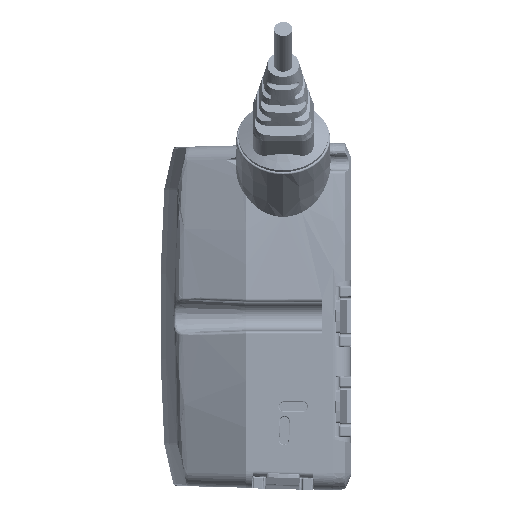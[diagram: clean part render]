
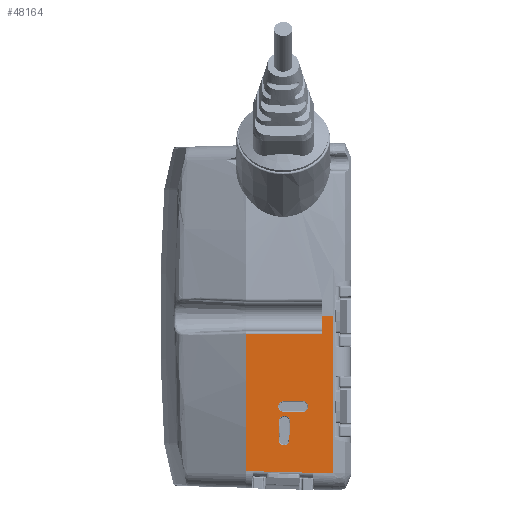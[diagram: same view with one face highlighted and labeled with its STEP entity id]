
A CAD part, left-side view. The second image highlights one B-rep face of the part: STEP entity #48164.
In plain terms, the highlighted planar face has unit normal (-1, 0, 0).
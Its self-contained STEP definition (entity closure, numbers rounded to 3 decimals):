
#3052=DIRECTION('',(0.,-1.,0.));
#3053=VECTOR('',#3052,3.9);
#3054=CARTESIAN_POINT('',(-134.5,0.,0.));
#3055=LINE('',#3054,#3053);
#3110=DIRECTION('',(0.,0.,-1.));
#3111=VECTOR('',#3110,6.302);
#3112=CARTESIAN_POINT('',(-134.5,0.,0.));
#3113=LINE('',#3112,#3111);
#3138=DIRECTION('',(0.,0.,-1.));
#3139=VECTOR('',#3138,56.6);
#3140=CARTESIAN_POINT('',(-134.5,-3.9,0.));
#3141=LINE('',#3140,#3139);
#3142=DIRECTION('',(0.,1.,0.026));
#3143=VECTOR('',#3142,7.294);
#3144=CARTESIAN_POINT('',(-134.5,-3.9,-56.6));
#3145=LINE('',#3144,#3143);
#3146=CARTESIAN_POINT('',(-134.5,3.392,
-56.409));
#3147=CARTESIAN_POINT('',(-134.5,3.393,
-56.407));
#3148=CARTESIAN_POINT('',(-134.5,3.395,
-56.402));
#3149=CARTESIAN_POINT('',(-134.5,3.398,
-56.395));
#3150=CARTESIAN_POINT('',(-134.5,3.401,-56.39));
#3151=CARTESIAN_POINT('',(-134.5,3.402,-56.388));
#3153=DIRECTION('',(0.,1.,0.026));
#3154=VECTOR('',#3153,21.279);
#3155=CARTESIAN_POINT('',(-134.5,3.402,-56.388));
#3156=LINE('',#3155,#3154);
#3157=CARTESIAN_POINT('',(-134.5,24.673,-55.831));
#3158=CARTESIAN_POINT('',(-134.5,24.675,-55.833));
#3159=CARTESIAN_POINT('',(-134.5,24.677,
-55.838));
#3160=CARTESIAN_POINT('',(-134.5,24.681,
-55.845));
#3161=CARTESIAN_POINT('',(-134.5,24.683,
-55.849));
#3162=CARTESIAN_POINT('',(-134.5,24.684,
-55.852));
#3164=DIRECTION('',(0.,1.,0.026));
#3165=VECTOR('',#3164,2.616);
#3166=CARTESIAN_POINT('',(-134.5,24.684,
-55.852));
#3167=LINE('',#3166,#3165);
#3168=CARTESIAN_POINT('',(-134.5,13.734,-44.534));
#3169=DIRECTION('',(-1.,0.,0.));
#3170=DIRECTION('',(0.,1.,0.026));
#3171=AXIS2_PLACEMENT_3D('',#3168,#3169,#3170);
#3173=DIRECTION('',(0.,-0.026,1.));
#3174=VECTOR('',#3173,6.8);
#3175=CARTESIAN_POINT('',(-134.5,11.785,-44.585));
#3176=LINE('',#3175,#3174);
#3177=CARTESIAN_POINT('',(-134.5,13.556,-37.737));
#3178=DIRECTION('',(-1.,0.,0.));
#3179=DIRECTION('',(0.,-1.,-0.026));
#3180=AXIS2_PLACEMENT_3D('',#3177,#3178,#3179);
#3182=DIRECTION('',(0.,0.026,-1.));
#3183=VECTOR('',#3182,6.8);
#3184=CARTESIAN_POINT('',(-134.5,15.506,-37.686));
#3185=LINE('',#3184,#3183);
#3186=CARTESIAN_POINT('',(-134.5,7.,-32.5));
#3187=DIRECTION('',(-1.,0.,0.));
#3188=DIRECTION('',(0.,0.,-1.));
#3189=AXIS2_PLACEMENT_3D('',#3186,#3187,#3188);
#3191=CARTESIAN_POINT('',(-134.5,13.8,-32.5));
#3192=DIRECTION('',(-1.,0.,0.));
#3193=DIRECTION('',(0.,0.,1.));
#3194=AXIS2_PLACEMENT_3D('',#3191,#3192,#3193);
#3200=DIRECTION('',(0.,-1.,0.));
#3201=VECTOR('',#3200,27.3);
#3202=CARTESIAN_POINT('',(-134.5,27.3,-6.302));
#3203=LINE('',#3202,#3201);
#3231=DIRECTION('',(0.,0.,-1.));
#3232=VECTOR('',#3231,49.481);
#3233=CARTESIAN_POINT('',(-134.5,27.3,-6.302));
#3234=LINE('',#3233,#3232);
#36509=DIRECTION('',(0.,-1.,0.));
#36510=VECTOR('',#36509,6.8);
#36511=CARTESIAN_POINT('',(-134.5,13.8,-34.45));
#36512=LINE('',#36511,#36510);
#36532=DIRECTION('',(0.,1.,0.));
#36533=VECTOR('',#36532,6.8);
#36534=CARTESIAN_POINT('',(-134.5,7.,-30.55));
#36535=LINE('',#36534,#36533);
#37969=CARTESIAN_POINT('',(-134.5,-3.9,0.));
#37970=VERTEX_POINT('',#37969);
#37971=CARTESIAN_POINT('',(-134.5,-3.9,-56.6));
#37972=VERTEX_POINT('',#37971);
#40492=CARTESIAN_POINT('',(-134.5,0.,0.));
#40493=VERTEX_POINT('',#40492);
#40501=CARTESIAN_POINT('',(-134.5,27.3,-6.302));
#40502=CARTESIAN_POINT('',(-134.5,0.,-6.302));
#40503=VERTEX_POINT('',#40501);
#40504=VERTEX_POINT('',#40502);
#40505=CARTESIAN_POINT('',(-134.5,3.392,
-56.409));
#40506=VERTEX_POINT('',#40505);
#40507=VERTEX_POINT('',#3151);
#40508=CARTESIAN_POINT('',(-134.5,24.673,-55.831));
#40509=VERTEX_POINT('',#40508);
#40510=VERTEX_POINT('',#3162);
#40511=CARTESIAN_POINT('',(-134.5,27.3,-55.783));
#40512=VERTEX_POINT('',#40511);
#40513=CARTESIAN_POINT('',(-134.5,15.684,-44.483));
#40514=CARTESIAN_POINT('',(-134.5,11.785,-44.585));
#40515=VERTEX_POINT('',#40513);
#40516=VERTEX_POINT('',#40514);
#40517=CARTESIAN_POINT('',(-134.5,11.607,-37.788));
#40518=VERTEX_POINT('',#40517);
#40519=CARTESIAN_POINT('',(-134.5,15.506,-37.686));
#40520=VERTEX_POINT('',#40519);
#40521=CARTESIAN_POINT('',(-134.5,7.,-34.45));
#40522=CARTESIAN_POINT('',(-134.5,7.,-30.55));
#40523=VERTEX_POINT('',#40521);
#40524=VERTEX_POINT('',#40522);
#40525=CARTESIAN_POINT('',(-134.5,13.8,-30.55));
#40526=VERTEX_POINT('',#40525);
#40527=CARTESIAN_POINT('',(-134.5,13.8,-34.45));
#40528=VERTEX_POINT('',#40527);
#48120=CARTESIAN_POINT('',(-134.5,11.7,-28.3));
#48121=DIRECTION('',(1.,0.,0.));
#48122=DIRECTION('',(0.,-1.,0.));
#48123=AXIS2_PLACEMENT_3D('',#48120,#48121,#48122);
#48124=PLANE('',#48123);
#48126=ORIENTED_EDGE('',*,*,#48125,.T.);
#48127=ORIENTED_EDGE('',*,*,#48103,.F.);
#48128=ORIENTED_EDGE('',*,*,#48030,.T.);
#48129=ORIENTED_EDGE('',*,*,#45330,.T.);
#48131=ORIENTED_EDGE('',*,*,#48130,.T.);
#48133=ORIENTED_EDGE('',*,*,#48132,.T.);
#48135=ORIENTED_EDGE('',*,*,#48134,.T.);
#48137=ORIENTED_EDGE('',*,*,#48136,.T.);
#48139=ORIENTED_EDGE('',*,*,#48138,.T.);
#48141=ORIENTED_EDGE('',*,*,#48140,.F.);
#48142=EDGE_LOOP('',(#48126,#48127,#48128,#48129,#48131,#48133,#48135,#48137,
#48139,#48141));
#48143=FACE_OUTER_BOUND('',#48142,.F.);
#48145=ORIENTED_EDGE('',*,*,#48144,.T.);
#48147=ORIENTED_EDGE('',*,*,#48146,.T.);
#48149=ORIENTED_EDGE('',*,*,#48148,.T.);
#48151=ORIENTED_EDGE('',*,*,#48150,.T.);
#48152=EDGE_LOOP('',(#48145,#48147,#48149,#48151));
#48153=FACE_BOUND('',#48152,.F.);
#48155=ORIENTED_EDGE('',*,*,#48154,.T.);
#48157=ORIENTED_EDGE('',*,*,#48156,.T.);
#48159=ORIENTED_EDGE('',*,*,#48158,.T.);
#48161=ORIENTED_EDGE('',*,*,#48160,.T.);
#48162=EDGE_LOOP('',(#48155,#48157,#48159,#48161));
#48163=FACE_BOUND('',#48162,.F.);
#3152=B_SPLINE_CURVE_WITH_KNOTS('',3,(#3146,#3147,#3148,#3149,#3150,#3151),
.UNSPECIFIED.,.F.,.F.,(4,1,1,4),(0.,0.333,0.667,1.),
.UNSPECIFIED.);
#3163=B_SPLINE_CURVE_WITH_KNOTS('',3,(#3157,#3158,#3159,#3160,#3161,#3162),
.UNSPECIFIED.,.F.,.F.,(4,1,1,4),(0.,0.333,0.667,1.),
.UNSPECIFIED.);
#3172=CIRCLE('',#3171,1.95);
#3181=CIRCLE('',#3180,1.95);
#3190=CIRCLE('',#3189,1.95);
#3195=CIRCLE('',#3194,1.95);
#45330=EDGE_CURVE('',#37970,#37972,#3141,.T.);
#48030=EDGE_CURVE('',#40493,#37970,#3055,.T.);
#48103=EDGE_CURVE('',#40493,#40504,#3113,.T.);
#48125=EDGE_CURVE('',#40503,#40504,#3203,.T.);
#48130=EDGE_CURVE('',#37972,#40506,#3145,.T.);
#48132=EDGE_CURVE('',#40506,#40507,#3152,.T.);
#48134=EDGE_CURVE('',#40507,#40509,#3156,.T.);
#48136=EDGE_CURVE('',#40509,#40510,#3163,.T.);
#48138=EDGE_CURVE('',#40510,#40512,#3167,.T.);
#48140=EDGE_CURVE('',#40503,#40512,#3234,.T.);
#48144=EDGE_CURVE('',#40515,#40516,#3172,.T.);
#48146=EDGE_CURVE('',#40516,#40518,#3176,.T.);
#48148=EDGE_CURVE('',#40518,#40520,#3181,.T.);
#48150=EDGE_CURVE('',#40520,#40515,#3185,.T.);
#48154=EDGE_CURVE('',#40523,#40524,#3190,.T.);
#48156=EDGE_CURVE('',#40524,#40526,#36535,.T.);
#48158=EDGE_CURVE('',#40526,#40528,#3195,.T.);
#48160=EDGE_CURVE('',#40528,#40523,#36512,.T.);
#48164=ADVANCED_FACE('',(#48143,#48153,#48163),#48124,.F.);
